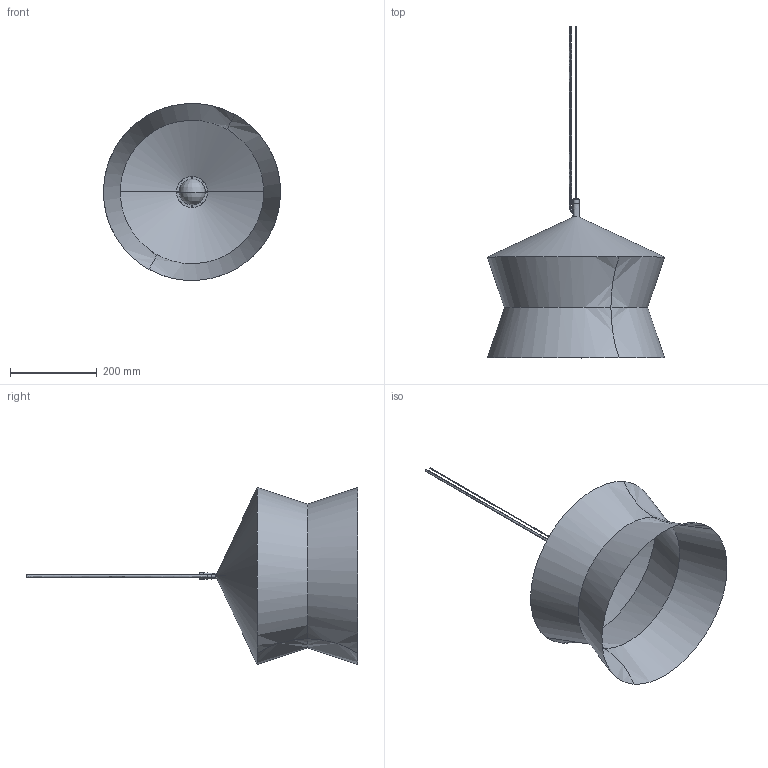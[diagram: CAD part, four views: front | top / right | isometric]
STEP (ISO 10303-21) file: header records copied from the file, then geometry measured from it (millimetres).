
FILE_DESCRIPTION(/* description */ (''),/* implementation_level */ '2;1');
FILE_NAME(/* name */ 'Waist',/* time_stamp */ '2022-07-12T11:43:11+01:00',/* author */ (''),/* organization */ (''),/* preprocessor_version */ 'ST-DEVELOPER v16.5',/* originating_system */ '',/* authorisation */ '');
FILE_SCHEMA (('AUTOMOTIVE_DESIGN'));
Length unit declared in the file: millimetre
Products named in the file (10): Document; e27 holdersc24; M10x35 ROD22; BLA02 - Tail stalk16; LAMP COVER14; ceiling rose tip for tinsel wire10; BLA02 - cone part8; E27___4; E27 GLS 01; Block 02
Assembly tree (9 placements, depth 3):
  Document
    e27 holdersc24
    M10x35 ROD22
    BLA02 - Tail stalk16
    LAMP COVER14
    ceiling rose tip for tinsel wire10
    BLA02 - cone part8
    E27___4
    E27 GLS 01
      Block 02
Bounding box: 408.27 x 764.93 x 407.44 mm (x, y, z)
Volume: 180284.3 mm3; surface area: 530830.6 mm2
Topology: 8 solids, 15 shells, 446 faces, 1232 edges, 783 vertices
Faces by surface type: bspline 274, plane 172
Entity records: 37828 total; most frequent: CARTESIAN_POINT 30432, ORIENTED_EDGE 2396, EDGE_CURVE 1221, VERTEX_POINT 781, B_SPLINE_CURVE_WITH_KNOTS 728, EDGE_LOOP 483, ADVANCED_FACE 446, FACE_OUTER_BOUND 446
